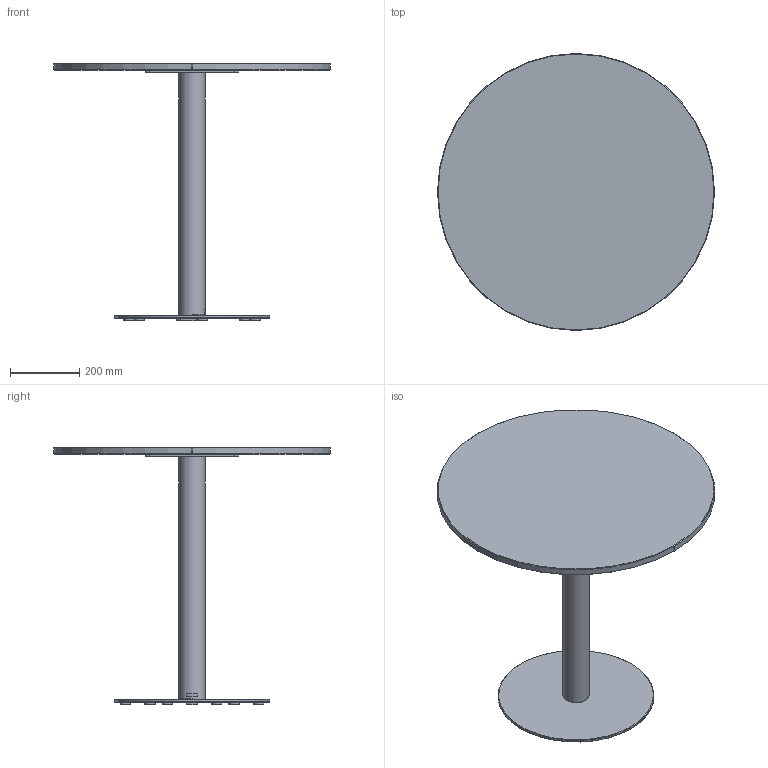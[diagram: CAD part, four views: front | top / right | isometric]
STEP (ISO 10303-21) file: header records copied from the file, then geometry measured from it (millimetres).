
FILE_DESCRIPTION( ('This file contains a STEP AP42 implementation' ,'as created by ZW3D STEP Interface translator.') ,'2;1' );
FILE_NAME( 'Henri - B_Rond - F1 - M1 - 800 x 800 x 750.stp' ,'24 912.15 513', (''), ('ZWCAD Software Co.'), 'Version 1.0', 'ZW3D to STEP translator', '' );
FILE_SCHEMA(('AUTOMOTIVE_DESIGN { 1 0 10303 214 1 1 1 1 }'));
Length unit declared in the file: millimetre
Products named in the file (14): 0; PIED BISTROT PARAMETRIQUE_; COLONNE ACIER Ø76 V.02_; TUB-D076-02_; PLA-R76B-01_; SOCLE ACIER C Ø450 V.02_; SCL-D450-02_; PLA-R30A-01_; PLA-R30A-01; CROIX ACIER 370 V.02_; CRX-X370-02_; WUERTH 0276063020 Euro-screw 6.3x2 Verzinkt_; PLATEAU BISTROT PARAMETRIQUE_; insert_m6_13_
Assembly tree (24 placements, depth 3):
  0
  PIED BISTROT PARAMETRIQUE_
    COLONNE ACIER Ø76 V.02_
      TUB-D076-02_
      PLA-R76B-01_  x2
    SOCLE ACIER C Ø450 V.02_
      SCL-D450-02_
      PLA-R30A-01_
      PLA-R30A-01  x5
    CROIX ACIER 370 V.02_
      CRX-X370-02_
    WUERTH 0276063020 Euro-screw 6.3x2 Verzinkt_
    PLATEAU BISTROT PARAMETRIQUE_
      insert_m6_13_  x8
Bounding box: 800 x 800 x 744 mm (x, y, z)
Volume: 12276670.4 mm3; surface area: 1906591 mm2
Topology: 21 solids, 21 shells, 524 faces, 1273 edges, 802 vertices
Faces by surface type: plane 254, bspline 121, cylinder 99, cone 49, torus 1
Full cylindrical faces by diameter (mm): 4.88 x1, 6 x8, 6.3 x1, 8 x47, 12 x2, 14 x2, 30 x6, 72 x1, 76 x1, 450 x1
Entity records: 11734 total; most frequent: CARTESIAN_POINT 3302, ORIENTED_EDGE 1526, DIRECTION 1424, EDGE_CURVE 763, VERTEX_POINT 490, VECTOR 476, LINE 476, AXIS2_PLACEMENT_3D 474
